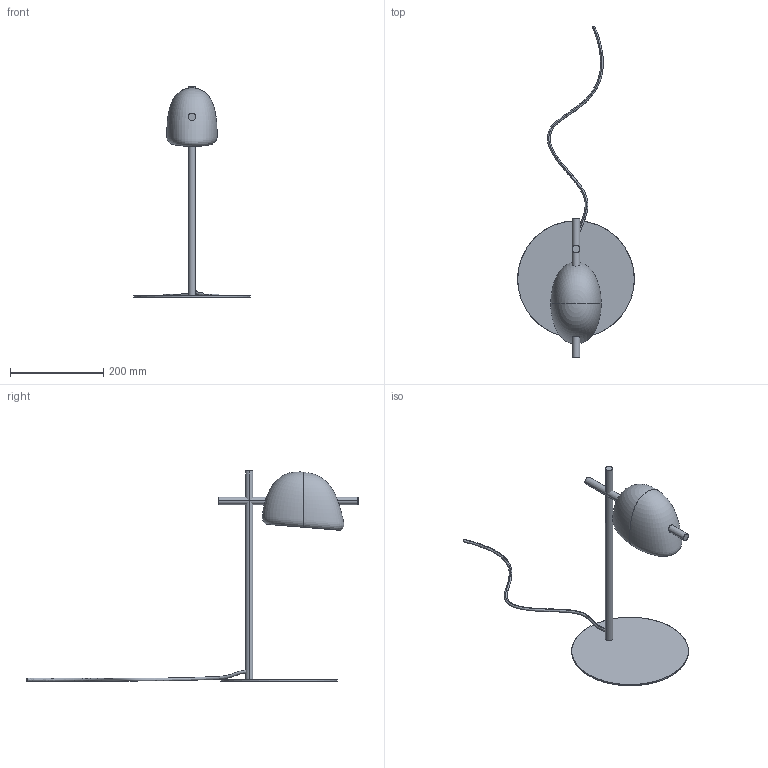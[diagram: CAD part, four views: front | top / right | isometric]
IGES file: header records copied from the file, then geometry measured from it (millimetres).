
Start section: SolidWorks IGES file using analytic representation for surfaces
Global section: file name: C:\Users\adrian\Desktop\Nueva Colección Enero 2026\ONE DRIVE\LADA_1354\LADA_S1354\3D\S1354.IGS; native system: SolidWorks 2023; preprocessor: SolidWorks 2023; author: adrian; date: 251231.091213; units: millimetre
Bounding box: 250 x 711.37 x 450 mm (x, y, z)
Surface area: 259113.4 mm2 (no closed solid volume)
Topology: 0 solids, 0 shells, 29 faces, 609 edges, 601 vertices
Faces by surface type: bspline 18, revolution 11
